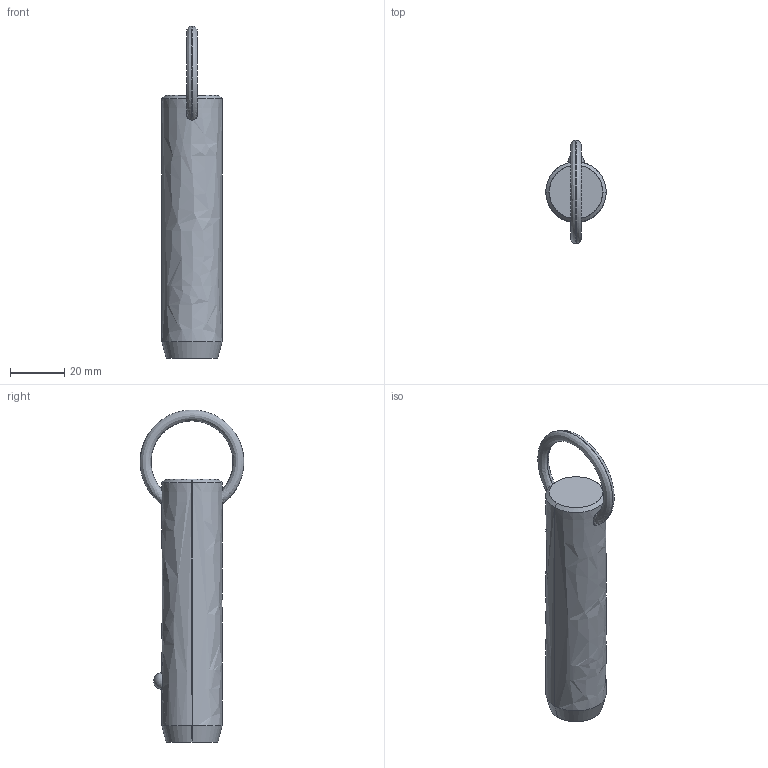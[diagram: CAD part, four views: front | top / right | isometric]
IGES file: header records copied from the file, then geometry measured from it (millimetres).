
Start section: SolidWorks IGES file using analytic representation for surfaces
Global section: file name: C:\Users\liam_\OneDrive\Documents\WORK\Work for WixRoyd\Job Files\J-00019 - Matt Davis CAD Checking\04. CAD Drawings\automotion20190605\P1250.2_v2\P1250.2_v2_20190729_IGES\P1250.087-230.igs; native system: SolidWorks 2017; preprocessor: SolidWorks 2017; author: liam_; date: 190730.000706; units: millimetre
Bounding box: 22.2 x 38.1 x 121.89 mm (x, y, z)
Surface area: 8374 mm2 (no closed solid volume)
Topology: 0 solids, 0 shells, 12 faces, 302 edges, 300 vertices
Faces by surface type: revolution 8, bspline 4
